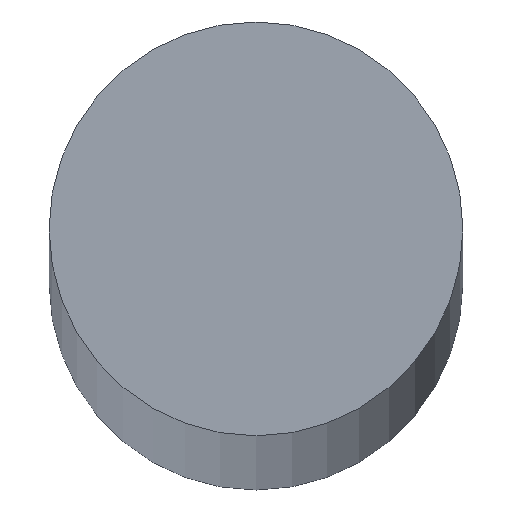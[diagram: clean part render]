
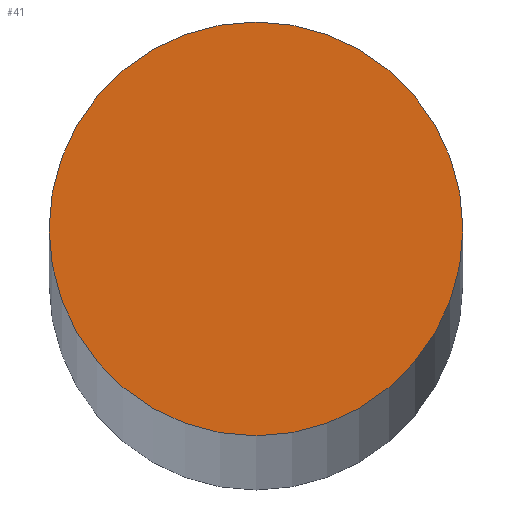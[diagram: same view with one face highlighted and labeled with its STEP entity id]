
A CAD part, top view. The second image highlights one B-rep face of the part: STEP entity #41.
In plain terms, the highlighted planar face has unit normal (0, 0, 1).
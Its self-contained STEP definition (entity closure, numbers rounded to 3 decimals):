
#16=PLANE('',#66);
#19=FACE_OUTER_BOUND('',#22,.T.);
#22=EDGE_LOOP('',(#37));
#25=CIRCLE('',#63,8.);
#27=VERTEX_POINT('',#82);
#29=EDGE_CURVE('',#27,#27,#25,.T.);
#37=ORIENTED_EDGE('',*,*,#29,.T.);
#41=ADVANCED_FACE('',(#19),#16,.T.);
#63=AXIS2_PLACEMENT_3D('',#83,#71,#72);
#66=AXIS2_PLACEMENT_3D('',#88,#78,#79);
#71=DIRECTION('center_axis',(0.,0.,1.));
#72=DIRECTION('ref_axis',(-1.,0.,0.));
#78=DIRECTION('center_axis',(0.,0.,1.));
#79=DIRECTION('ref_axis',(1.,0.,0.));
#82=CARTESIAN_POINT('',(8.,0.,1200.));
#83=CARTESIAN_POINT('Origin',(0.,0.,1200.));
#88=CARTESIAN_POINT('Origin',(0.,0.,
1200.));
